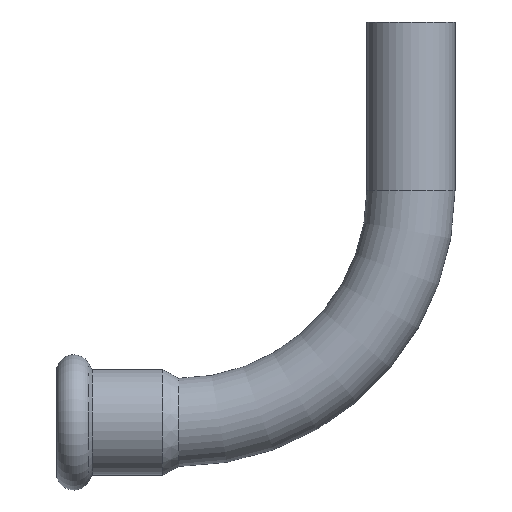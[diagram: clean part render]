
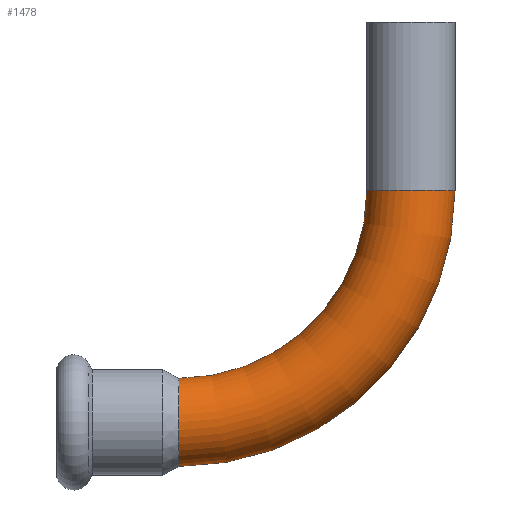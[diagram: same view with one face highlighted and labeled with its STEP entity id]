
A CAD part, top view. The second image highlights one B-rep face of the part: STEP entity #1478.
In plain terms, the highlighted toroidal (fillet/blend) face has major radius 40 mm and minor radius 7.6 mm.
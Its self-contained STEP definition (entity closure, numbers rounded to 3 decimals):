
#11 = CIRCLE ( 'NONE', #267, 7.6 ) ;
#14 = AXIS2_PLACEMENT_3D ( 'NONE', #880, #142, #114 ) ;
#114 = DIRECTION ( 'NONE',  ( 1., 0., 0. ) ) ;
#142 = DIRECTION ( 'NONE',  ( 0., 0., 1. ) ) ;
#145 = CARTESIAN_POINT ( 'NONE',  ( 0., 0., 0. ) ) ;
#219 = EDGE_LOOP ( 'NONE', ( #1916, #1513, #1434, #1603 ) ) ;
#231 = EDGE_CURVE ( 'NONE', #1006, #1104, #295, .T. ) ;
#267 = AXIS2_PLACEMENT_3D ( 'NONE', #1658, #1535, #894 ) ;
#295 = CIRCLE ( 'NONE', #1822, 7.6 ) ;
#425 = FACE_OUTER_BOUND ( 'NONE', #219, .T. ) ;
#684 = AXIS2_PLACEMENT_3D ( 'NONE', #1592, #704, #1755 ) ;
#700 = CARTESIAN_POINT ( 'NONE',  ( 0., -47.6, 0. ) ) ;
#704 = DIRECTION ( 'NONE',  ( 0., 0., 1. ) ) ;
#723 = AXIS2_PLACEMENT_3D ( 'NONE', #145, #884, #1343 ) ;
#775 = CIRCLE ( 'NONE', #684, 47.6 ) ;
#808 = VERTEX_POINT ( 'NONE', #1833 ) ;
#870 = DIRECTION ( 'NONE',  ( -1., 0., 0. ) ) ;
#880 = CARTESIAN_POINT ( 'NONE',  ( 0., 0., 0. ) ) ;
#884 = DIRECTION ( 'NONE',  ( 0., 0., 1. ) ) ;
#894 = DIRECTION ( 'NONE',  ( 0., 1., 0. ) ) ;
#921 = EDGE_CURVE ( 'NONE', #1093, #1104, #775, .T. ) ;
#949 = TOROIDAL_SURFACE ( 'NONE', #14, 40., 7.6 ) ;
#1006 = VERTEX_POINT ( 'NONE', #1599 ) ;
#1093 = VERTEX_POINT ( 'NONE', #700 ) ;
#1104 = VERTEX_POINT ( 'NONE', #1927 ) ;
#1266 = EDGE_CURVE ( 'NONE', #808, #1006, #1583, .T. ) ;
#1314 = EDGE_CURVE ( 'NONE', #808, #1093, #11, .T. ) ;
#1331 = CARTESIAN_POINT ( 'NONE',  ( 40., 0., 0. ) ) ;
#1343 = DIRECTION ( 'NONE',  ( 1., 0., 0. ) ) ;
#1434 = ORIENTED_EDGE ( 'NONE', *, *, #231, .F. ) ;
#1478 = ADVANCED_FACE ( 'NONE', ( #425 ), #949, .T. ) ;
#1513 = ORIENTED_EDGE ( 'NONE', *, *, #921, .T. ) ;
#1535 = DIRECTION ( 'NONE',  ( 1., 0., 0. ) ) ;
#1583 = CIRCLE ( 'NONE', #723, 32.4 ) ;
#1592 = CARTESIAN_POINT ( 'NONE',  ( 0., 0., 0. ) ) ;
#1599 = CARTESIAN_POINT ( 'NONE',  ( 32.4, 0., 0. ) ) ;
#1603 = ORIENTED_EDGE ( 'NONE', *, *, #1266, .F. ) ;
#1658 = CARTESIAN_POINT ( 'NONE',  ( 0., -40., 0. ) ) ;
#1755 = DIRECTION ( 'NONE',  ( 1., 0., 0. ) ) ;
#1796 = DIRECTION ( 'NONE',  ( 0., 1., 0. ) ) ;
#1822 = AXIS2_PLACEMENT_3D ( 'NONE', #1331, #1796, #870 ) ;
#1833 = CARTESIAN_POINT ( 'NONE',  ( 0., -32.4, 0. ) ) ;
#1916 = ORIENTED_EDGE ( 'NONE', *, *, #1314, .T. ) ;
#1927 = CARTESIAN_POINT ( 'NONE',  ( 47.6, 0., 0. ) ) ;
